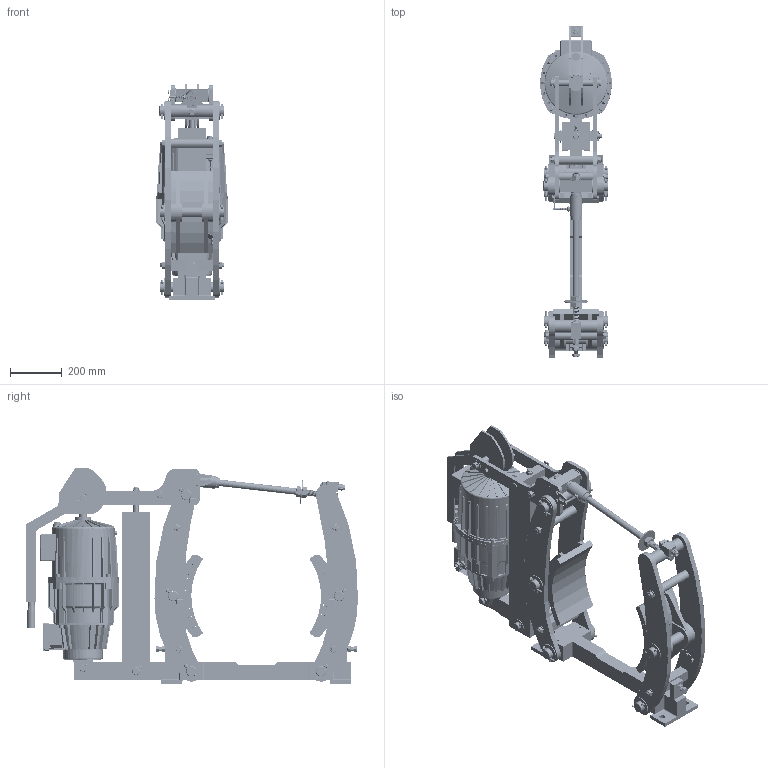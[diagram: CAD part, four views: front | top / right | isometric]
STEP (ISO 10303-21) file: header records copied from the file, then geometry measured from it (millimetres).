
FILE_DESCRIPTION((''),'2;1');
FILE_NAME('4459_504_553_E00002','2018-01-30T',('VORO'),(''),'CREO PARAMETRIC BY PTC INC, 2017170','CREO PARAMETRIC BY PTC INC, 2017170','');
FILE_SCHEMA(('CONFIG_CONTROL_DESIGN'));
Products named in the file (1): 4459_504_553_E00002
Bounding box: 276 x 1278.79 x 834 mm (x, y, z)
Surface area: 5335400.2 mm2 (no closed solid volume)
Topology: 0 solids, 3957 shells, 4809 faces, 28211 edges, 26472 vertices
Faces by surface type: plane 2065, cylinder 1450, cone 1021, torus 250, bspline 18, sphere 5
Entity records: 499426 total; most frequent: CARTESIAN_POINT 160983, PRESENTATION_STYLE_ASSIGNMENT 36959, DIRECTION 33269, STYLED_ITEM 32150, ORIENTED_EDGE 29928, CURVE_STYLE 28193, EDGE_CURVE 28193, VERTEX_POINT 26470
